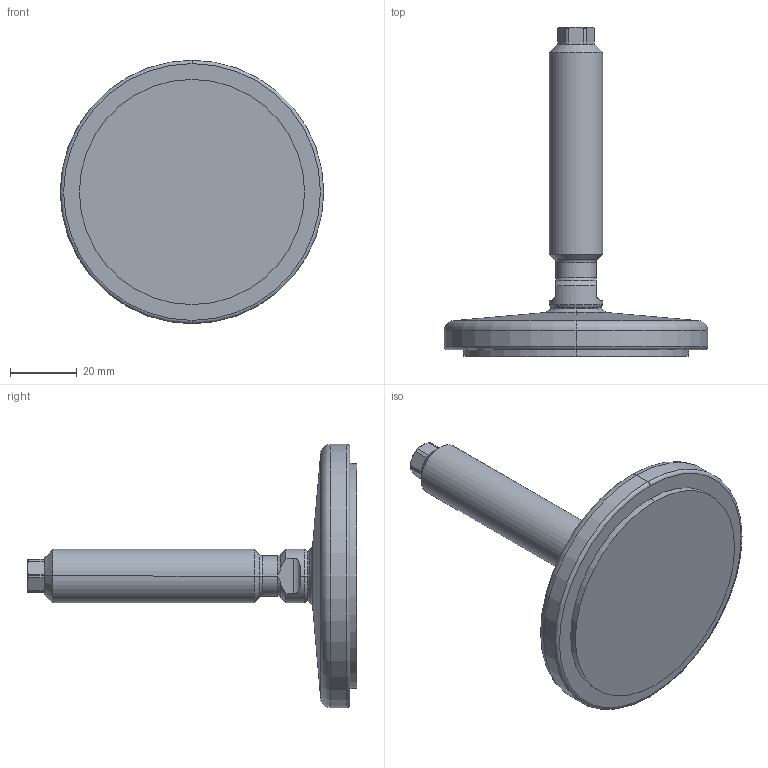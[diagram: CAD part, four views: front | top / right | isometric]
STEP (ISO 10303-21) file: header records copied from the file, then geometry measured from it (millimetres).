
FILE_DESCRIPTION (( 'STEP AP214' ), '1' );
FILE_NAME ('21-80-M16-75-D1-V.step', '2020-10-02T17:36:13', ( '' ), ( '' ), 'SwSTEP 2.0', 'SolidWorks 2019', '' );
FILE_SCHEMA (( 'AUTOMOTIVE_DESIGN' ));
Length unit declared in the file: millimetre
Products named in the file (3): WB21_Spindel_V^WB21_V_M16-75; 21-80-M16-75-D1-V; WB21_Fußteller 21^WB21_V_D1-080-R10-B7 (M8 M10_M12_M16)
Assembly tree (2 placements, depth 2):
  21-80-M16-75-D1-V
    WB21_Fußteller 21^WB21_V_D1-080-R10-B7 (M8 M10_M12_M16)
    WB21_Spindel_V^WB21_V_M16-75
Bounding box: 79 x 98.64 x 79 mm (x, y, z)
Volume: 69593 mm3; surface area: 16766.1 mm2
Topology: 2 solids, 2 shells, 76 faces, 171 edges, 101 vertices
Faces by surface type: cylinder 25, plane 20, cone 17, torus 10, sphere 4
Entity records: 2391 total; most frequent: CARTESIAN_POINT 509, DIRECTION 390, ORIENTED_EDGE 342, EDGE_CURVE 171, AXIS2_PLACEMENT_3D 166, VERTEX_POINT 101, CIRCLE 85, EDGE_LOOP 78
